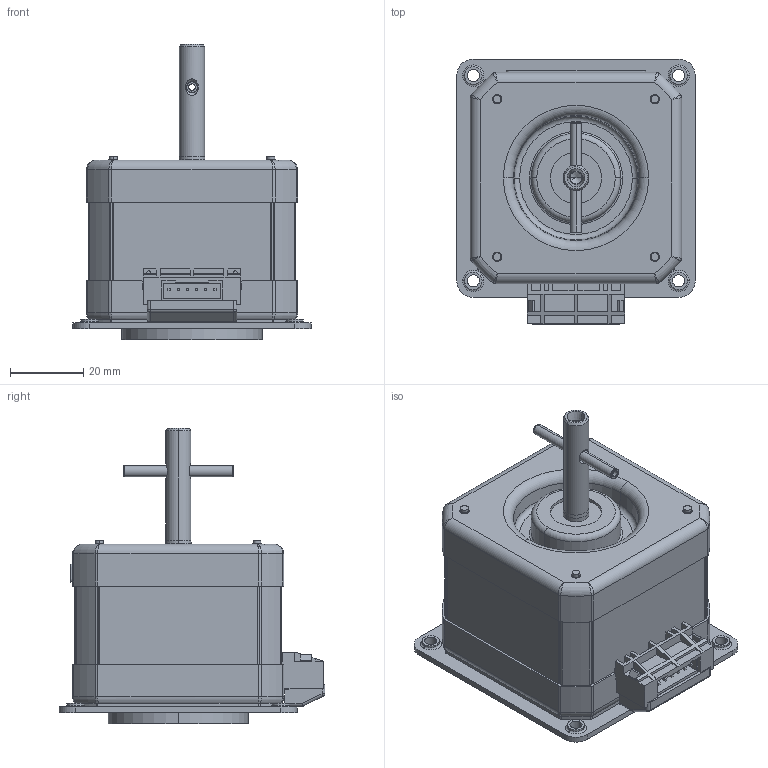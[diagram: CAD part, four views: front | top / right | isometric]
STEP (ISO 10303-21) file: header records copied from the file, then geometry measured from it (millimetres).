
FILE_DESCRIPTION (( 'STEP AP203' ), '1' );
FILE_NAME ('KAP56LC325G_3D.STEP', '2026-09-15T04:28:31', ( '' ), ( '' ), 'SwSTEP 2.0', 'SolidWorks 2026', '' );
FILE_SCHEMA (( 'CONFIG_CONTROL_DESIGN' ));
Length unit declared in the file: millimetre
Products named in the file (1): KAP56LC325G_3D
Bounding box: 65 x 72.5 x 80.56 mm (x, y, z)
Volume: 142172.4 mm3; surface area: 28251.6 mm2
Topology: 2 solids, 15 shells, 1512 faces, 3453 edges, 1984 vertices
Faces by surface type: cylinder 593, plane 436, cone 429, torus 34, bspline 16, sphere 4
Entity records: 42581 total; most frequent: CARTESIAN_POINT 8062, DIRECTION 7626, ORIENTED_EDGE 6882, EDGE_CURVE 3441, AXIS2_PLACEMENT_3D 2750, VECTOR 2126, LINE 2126, VERTEX_POINT 1984
